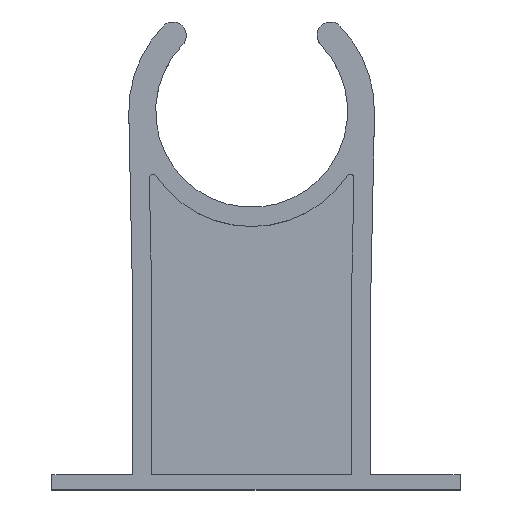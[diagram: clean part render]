
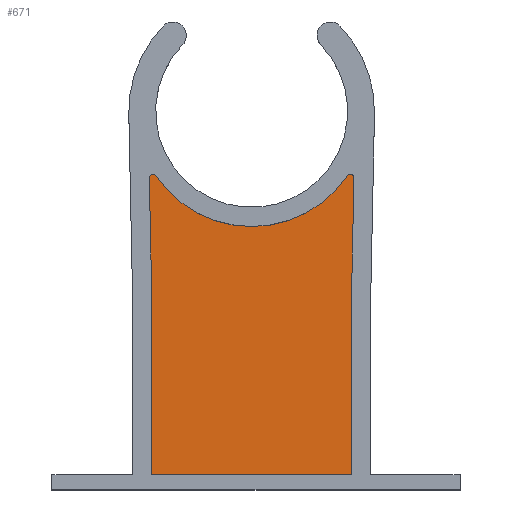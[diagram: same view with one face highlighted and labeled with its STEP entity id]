
A CAD part, top view. The second image highlights one B-rep face of the part: STEP entity #671.
In plain terms, the highlighted planar face has unit normal (0, 0, 1).
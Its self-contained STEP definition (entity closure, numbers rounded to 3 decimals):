
#57=CIRCLE('',#754,2.258);
#58=CIRCLE('',#755,67.742);
#59=CIRCLE('',#756,2.258);
#78=FACE_OUTER_BOUND('',#120,.T.);
#120=EDGE_LOOP('',(#554,#555,#556,#557,#558,#559,#560,#561));
#151=LINE('',#1007,#221);
#187=LINE('',#1117,#257);
#190=LINE('',#1122,#260);
#192=LINE('',#1128,#262);
#193=LINE('',#1135,#263);
#221=VECTOR('',#801,10.);
#257=VECTOR('',#901,10.);
#260=VECTOR('',#906,10.);
#262=VECTOR('',#914,10.);
#263=VECTOR('',#921,10.);
#292=VERTEX_POINT('',#1003);
#294=VERTEX_POINT('',#1006);
#336=VERTEX_POINT('',#1116);
#337=VERTEX_POINT('',#1120);
#338=VERTEX_POINT('',#1127);
#339=VERTEX_POINT('',#1129);
#340=VERTEX_POINT('',#1131);
#341=VERTEX_POINT('',#1133);
#357=EDGE_CURVE('',#294,#292,#151,.T.);
#414=EDGE_CURVE('',#336,#294,#187,.T.);
#417=EDGE_CURVE('',#337,#292,#190,.T.);
#419=EDGE_CURVE('',#338,#337,#192,.T.);
#420=EDGE_CURVE('',#339,#338,#57,.T.);
#421=EDGE_CURVE('',#340,#339,#58,.T.);
#422=EDGE_CURVE('',#341,#340,#59,.T.);
#423=EDGE_CURVE('',#336,#341,#193,.T.);
#554=ORIENTED_EDGE('',*,*,#357,.T.);
#555=ORIENTED_EDGE('',*,*,#417,.F.);
#556=ORIENTED_EDGE('',*,*,#419,.F.);
#557=ORIENTED_EDGE('',*,*,#420,.F.);
#558=ORIENTED_EDGE('',*,*,#421,.F.);
#559=ORIENTED_EDGE('',*,*,#422,.F.);
#560=ORIENTED_EDGE('',*,*,#423,.F.);
#561=ORIENTED_EDGE('',*,*,#414,.T.);
#646=PLANE('',#753);
#671=ADVANCED_FACE('',(#78),#646,.F.);
#753=AXIS2_PLACEMENT_3D('',#1126,#912,#913);
#754=AXIS2_PLACEMENT_3D('',#1130,#915,#916);
#755=AXIS2_PLACEMENT_3D('',#1132,#917,#918);
#756=AXIS2_PLACEMENT_3D('',#1134,#919,#920);
#801=DIRECTION('',(1.,0.,0.));
#901=DIRECTION('',(0.,-1.,0.));
#906=DIRECTION('',(0.,-1.,0.));
#912=DIRECTION('center_axis',(0.,0.,-1.));
#913=DIRECTION('ref_axis',(-1.,0.,0.));
#914=DIRECTION('',(-0.021,-1.,0.));
#915=DIRECTION('center_axis',(0.,0.,-1.));
#916=DIRECTION('ref_axis',(-1.,0.021,0.));
#917=DIRECTION('center_axis',(0.,0.,1.));
#918=DIRECTION('ref_axis',(-0.827,-0.562,0.));
#919=DIRECTION('center_axis',(0.,0.,-1.));
#920=DIRECTION('ref_axis',(-0.827,-0.562,0.));
#921=DIRECTION('',(-0.021,1.,0.));
#1003=CARTESIAN_POINT('',(56.373,-187.425,-15.));
#1006=CARTESIAN_POINT('',(-61.506,-187.425,-15.));
#1007=CARTESIAN_POINT('',(-1.283,-187.425,-15.));
#1116=CARTESIAN_POINT('',(-61.506,-73.135,-15.));
#1117=CARTESIAN_POINT('',(-61.506,-73.135,-15.));
#1120=CARTESIAN_POINT('',(56.373,-73.135,-15.));
#1122=CARTESIAN_POINT('',(56.373,-73.135,-15.));
#1126=CARTESIAN_POINT('Origin',(-2.567,-41.987,-15.));
#1127=CARTESIAN_POINT('',(57.605,-13.145,-15.));
#1128=CARTESIAN_POINT('',(56.68,-58.173,-15.));
#1129=CARTESIAN_POINT('',(53.48,-11.83,-15.));
#1130=CARTESIAN_POINT('Origin',(55.348,-13.098,-15.));
#1131=CARTESIAN_POINT('',(-58.613,-11.83,-15.));
#1132=CARTESIAN_POINT('Origin',(-2.567,26.22,-15.));
#1133=CARTESIAN_POINT('',(-62.738,-13.145,-15.));
#1134=CARTESIAN_POINT('Origin',(-60.481,-13.098,-15.));
#1135=CARTESIAN_POINT('',(-62.429,-28.178,-15.));
